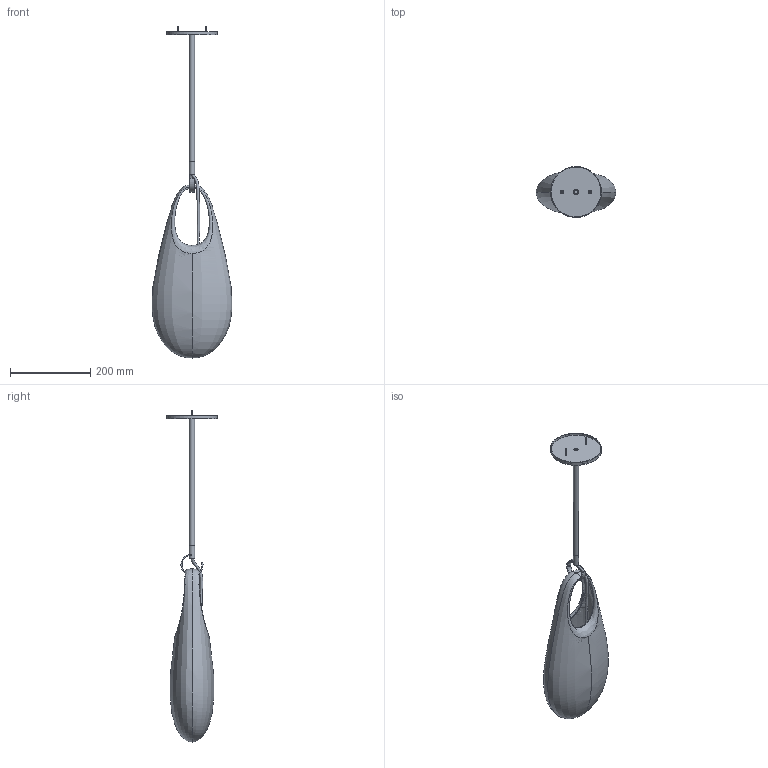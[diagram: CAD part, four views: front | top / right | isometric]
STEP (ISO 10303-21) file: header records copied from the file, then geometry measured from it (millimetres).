
FILE_DESCRIPTION(/* description */ (''),/* implementation_level */ '2;1');
FILE_NAME(/* name */ 'SkLO_Hold_18_Pendant_LT263_3D',/* time_stamp */ '2024-10-21T17:58:35+02:00',/* author */ (''),/* organization */ (''),/* preprocessor_version */ 'ST-DEVELOPER v16.5',/* originating_system */ 'Rhino 7.34',/* authorisation */ '');
FILE_SCHEMA (('CONFIG_CONTROL_DESIGN'));
Length unit declared in the file: millimetre
Products named in the file (1): Document
Bounding box: 199.42 x 126.82 x 827.71 mm (x, y, z)
Volume: 688106.6 mm3; surface area: 368799.9 mm2
Topology: 10 solids, 13 shells, 555 faces, 1462 edges, 936 vertices
Faces by surface type: plane 288, cylinder 151, bspline 116
Full cylindrical faces by diameter (mm): 2.532 x5, 3 x1, 4 x54, 4.5 x2, 5 x1, 6 x1, 8 x3, 10.2 x2, 12 x1, 13 x2, 26 x1, 124 x1, 127 x1
Entity records: 71120 total; most frequent: CARTESIAN_POINT 61563, ORIENTED_EDGE 2827, EDGE_CURVE 1437, B_SPLINE_CURVE_WITH_KNOTS 1107, VERTEX_POINT 934, EDGE_LOOP 602, ADVANCED_FACE 555, FACE_OUTER_BOUND 555
